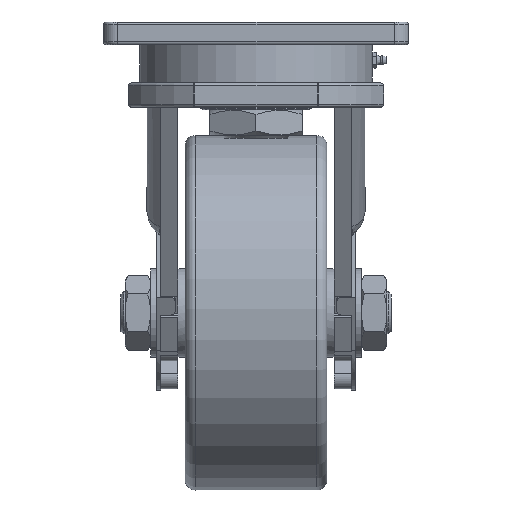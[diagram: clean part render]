
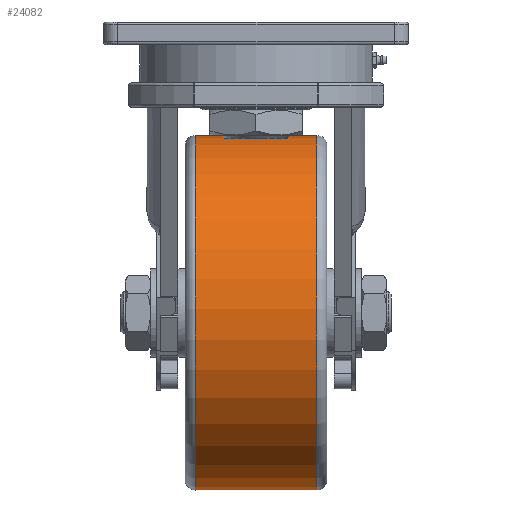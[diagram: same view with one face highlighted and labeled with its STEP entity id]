
A CAD part, front view. The second image highlights one B-rep face of the part: STEP entity #24082.
In plain terms, the highlighted cylindrical face has radius 125.001 mm (diameter 250.001 mm), a full revolution.
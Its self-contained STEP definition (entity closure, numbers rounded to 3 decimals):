
#24055=CARTESIAN_POINT('',(-185.388,1.433,-447.719));
#24056=DIRECTION('',(-1.0,0.,0.));
#24057=DIRECTION('',(0.,-0.876,-0.483));
#24058=AXIS2_PLACEMENT_3D('',#24055,#24056,#24057);
#24059=CYLINDRICAL_SURFACE('',#24058,125.001);
#24060=CARTESIAN_POINT('',(-142.388,-58.952,-338.271));
#24061=VERTEX_POINT('',#24060);
#24062=CARTESIAN_POINT('',(-142.388,1.433,-447.719));
#24063=DIRECTION('',(-1.,0.,0.));
#24064=DIRECTION('',(0.,-0.876,-0.483));
#24065=AXIS2_PLACEMENT_3D('',#24062,#24063,#24064);
#24066=CIRCLE('',#24065,125.001);
#24067=EDGE_CURVE('',#24061,#24061,#24066,.T.);
#24068=ORIENTED_EDGE('',*,*,#24067,.T.);
#24069=EDGE_LOOP('',(#24068));
#24070=FACE_OUTER_BOUND('',#24069,.T.);
#24071=CARTESIAN_POINT('',(-228.388,-58.952,-338.271));
#24072=VERTEX_POINT('',#24071);
#24073=CARTESIAN_POINT('',(-228.388,1.433,-447.719));
#24074=DIRECTION('',(-1.0,0.,0.));
#24075=DIRECTION('',(0.,-0.876,-0.483));
#24076=AXIS2_PLACEMENT_3D('',#24073,#24074,#24075);
#24077=CIRCLE('',#24076,125.001);
#24078=EDGE_CURVE('',#24072,#24072,#24077,.T.);
#24079=ORIENTED_EDGE('',*,*,#24078,.F.);
#24080=EDGE_LOOP('',(#24079));
#24081=FACE_BOUND('',#24080,.T.);
#24082=ADVANCED_FACE('',(#24070,#24081),#24059,.T.);
